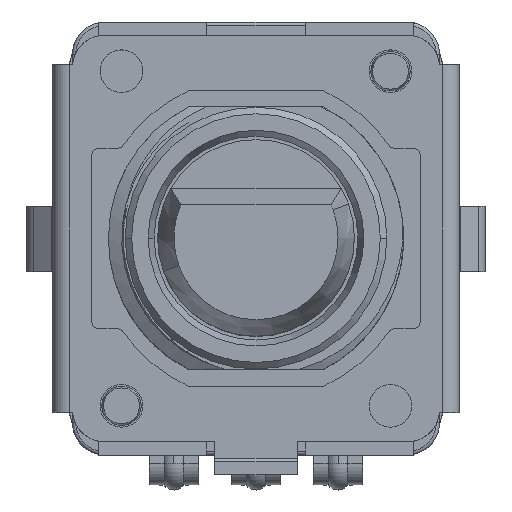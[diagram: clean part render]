
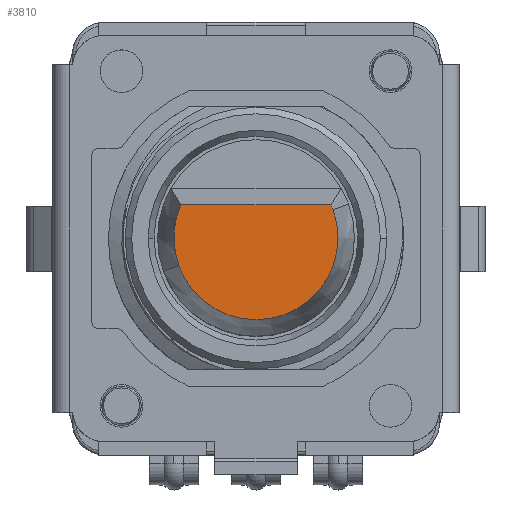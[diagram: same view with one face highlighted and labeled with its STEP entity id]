
A CAD part, top view. The second image highlights one B-rep face of the part: STEP entity #3810.
In plain terms, the highlighted planar face has unit normal (0, 0, 1) as drawn and (0, 0, -1) by its records, which use the part's own axes.
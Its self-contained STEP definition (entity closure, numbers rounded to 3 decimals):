
#1002 = EDGE_CURVE ( 'NONE', #10281, #5502, #31936, .T. ) ;
#3810 = ADVANCED_FACE ( 'NONE', ( #17969 ), #18859, .F. ) ;
#5502 = VERTEX_POINT ( 'NONE', #19188 ) ;
#5566 = VERTEX_POINT ( 'NONE', #19252 ) ;
#5623 = VERTEX_POINT ( 'NONE', #19309 ) ;
#10281 = VERTEX_POINT ( 'NONE', #19798 ) ;
#13930 = CARTESIAN_POINT ( 'NONE',  ( 0., 0., -20.05 ) ) ;
#13942 = DIRECTION ( 'NONE',  ( 0., 0., 1. ) ) ;
#13944 = DIRECTION ( 'NONE',  ( 0.94, -0.342, 0. ) ) ;
#14243 = CARTESIAN_POINT ( 'NONE',  ( 0., 0., -20.05 ) ) ;
#14246 = DIRECTION ( 'NONE',  ( 0., 0., 1. ) ) ;
#14247 = DIRECTION ( 'NONE',  ( 0.94, -0.342, 0. ) ) ;
#14467 = CARTESIAN_POINT ( 'NONE',  ( 0., 0., -20.05 ) ) ;
#14472 = DIRECTION ( 'NONE',  ( 0., 0., 1. ) ) ;
#14473 = DIRECTION ( 'NONE',  ( 0.94, -0.342, 0. ) ) ;
#16400 = AXIS2_PLACEMENT_3D ( 'NONE', #13930, #13942, #13944 ) ;
#16414 = AXIS2_PLACEMENT_3D ( 'NONE', #14243, #14246, #14247 ) ;
#16431 = AXIS2_PLACEMENT_3D ( 'NONE', #14467, #14472, #14473 ) ;
#17969 = FACE_OUTER_BOUND ( 'NONE', #41986, .T. ) ;
#18234 = CIRCLE ( 'NONE', #16400, 2.5 ) ;
#18277 = CIRCLE ( 'NONE', #16414, 2.5 ) ;
#18339 = CIRCLE ( 'NONE', #16431, 2.5 ) ;
#18823 = CARTESIAN_POINT ( 'NONE',  ( 1.026, 2.819, -20.05 ) ) ;
#18859 = PLANE ( 'NONE',  #38789 ) ;
#18873 = DIRECTION ( 'NONE',  ( 0., 0., 1. ) ) ;
#18874 = DIRECTION ( 'NONE',  ( 0.94, -0.342, 0. ) ) ;
#19188 = CARTESIAN_POINT ( 'NONE',  ( -2.291, 1., -20.05 ) ) ;
#19252 = CARTESIAN_POINT ( 'NONE',  ( 2.349, -0.855, -20.05 ) ) ;
#19309 = CARTESIAN_POINT ( 'NONE',  ( -2.349, 0.855, -20.05 ) ) ;
#19798 = CARTESIAN_POINT ( 'NONE',  ( 2.291, 1., -20.05 ) ) ;
#20575 = CARTESIAN_POINT ( 'NONE',  ( 6.858, 1., -20.05 ) ) ;
#20581 = DIRECTION ( 'NONE',  ( -1., 0., 0. ) ) ;
#26701 = EDGE_CURVE ( 'NONE', #5566, #10281, #18234, .T. ) ;
#26750 = EDGE_CURVE ( 'NONE', #5623, #5566, #18277, .T. ) ;
#26805 = EDGE_CURVE ( 'NONE', #5502, #5623, #18339, .T. ) ;
#31930 = VECTOR ( 'NONE', #20581, 1000. ) ;
#31936 = LINE ( 'NONE', #20575, #31930 ) ;
#32313 = ORIENTED_EDGE ( 'NONE', *, *, #26805, .F. ) ;
#32315 = ORIENTED_EDGE ( 'NONE', *, *, #26750, .F. ) ;
#32318 = ORIENTED_EDGE ( 'NONE', *, *, #26701, .F. ) ;
#32320 = ORIENTED_EDGE ( 'NONE', *, *, #1002, .F. ) ;
#38789 = AXIS2_PLACEMENT_3D ( 'NONE', #18823, #18873, #18874 ) ;
#41986 = EDGE_LOOP ( 'NONE', ( #32320, #32318, #32315, #32313 ) ) ;
